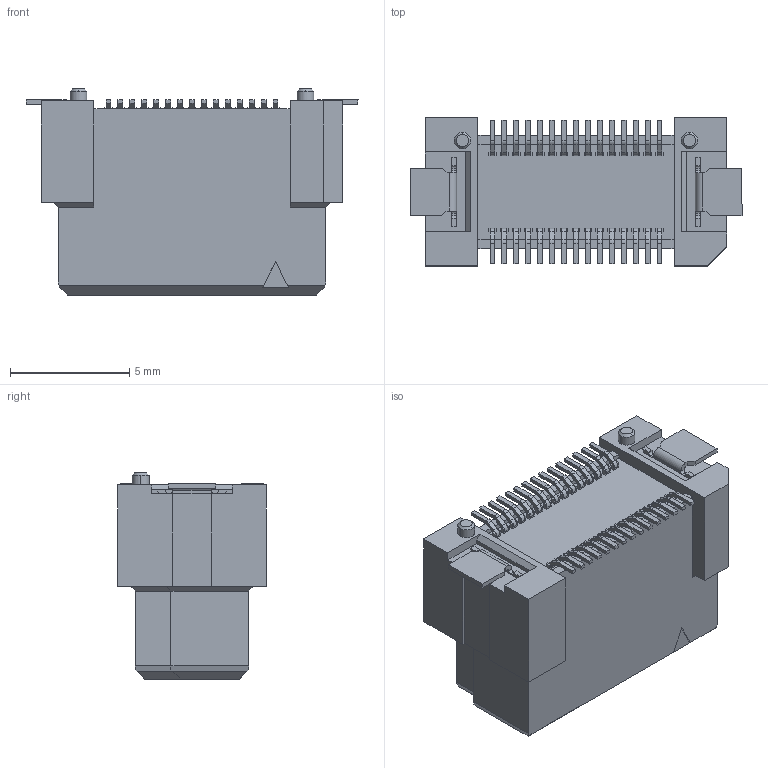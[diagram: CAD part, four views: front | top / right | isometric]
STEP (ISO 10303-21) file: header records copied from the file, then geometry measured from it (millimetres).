
FILE_DESCRIPTION(('Creo Elements/Direct Modeling STEP Export'),'2;1');
FILE_NAME('P3D070_DT11-030S-10-T.stp','2017-08-11T10:28:06',(''),(''),'Creo Elements/Direct Modeling STEP processor for AP214 (Solid Model)','Creo Elements/Direct Modeling 19.0F 14-Feb-2017 (C) Parametric Technology GmbH','');
FILE_SCHEMA(('AUTOMOTIVE_DESIGN { 1 0 10303 214 1 1 1 1 }'));
Length unit declared in the file: millimetre
Products named in the file (2): DT11-030S-10-T
Assembly tree (1 placements, depth 2):
  DT11-030S-10-T
    DT11-030S-10-T
Bounding box: 13.9 x 6.2 x 8.63 mm (x, y, z)
Volume: 416.8 mm3; surface area: 690.5 mm2
Topology: 1 solids, 1 shells, 1161 faces, 3282 edges, 2188 vertices
Faces by surface type: plane 991, cylinder 166, cone 4
Entity records: 36829 total; most frequent: ORIENTED_EDGE 6564, CARTESIAN_POINT 6544, DIRECTION 5883, EDGE_CURVE 3282, VECTOR 2829, LINE 2829, VERTEX_POINT 2188, AXIS2_PLACEMENT_3D 1527
